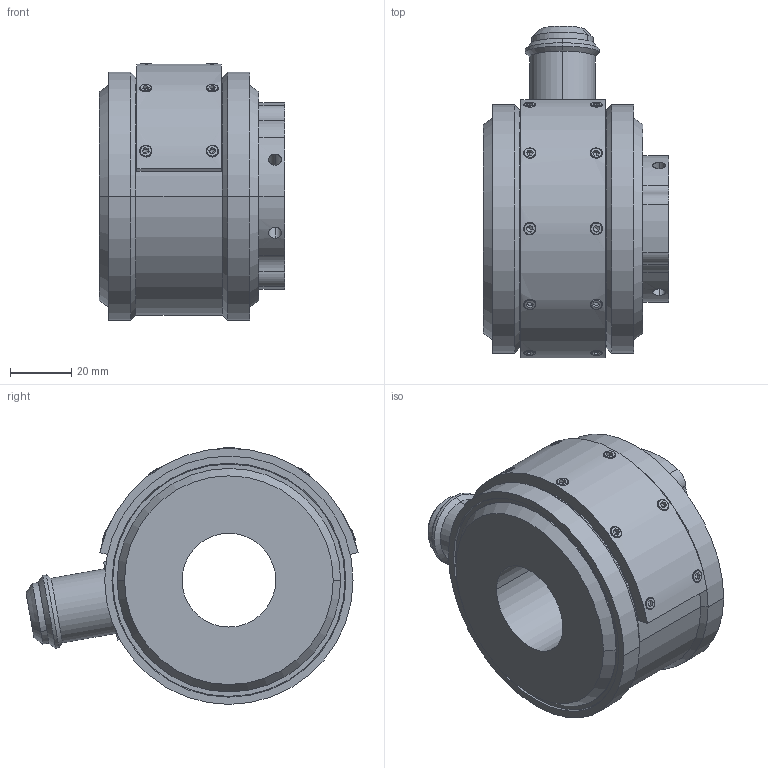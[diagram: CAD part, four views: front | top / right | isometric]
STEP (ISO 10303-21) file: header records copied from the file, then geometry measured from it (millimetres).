
FILE_DESCRIPTION (( 'STEP AP203' ), '1' );
FILE_NAME ('1003126.STEP', '2014-06-10T07:52:43', ( '' ), ( '' ), 'SwSTEP 2.0', 'SolidWorks 2014', '' );
FILE_SCHEMA (( 'CONFIG_CONTROL_DESIGN' ));
Length unit declared in the file: inch
Products named in the file (1): 1003126
Bounding box: 60.33 x 108.13 x 83.64 mm (x, y, z)
Volume: 234351.9 mm3; surface area: 40164.5 mm2
Topology: 1 solids, 17 shells, 672 faces, 1534 edges, 948 vertices
Faces by surface type: plane 317, cylinder 241, cone 102, torus 12
Entity records: 19964 total; most frequent: CARTESIAN_POINT 4362, DIRECTION 3454, ORIENTED_EDGE 3004, EDGE_CURVE 1502, AXIS2_PLACEMENT_3D 1333, VERTEX_POINT 948, EDGE_LOOP 806, LINE 788
